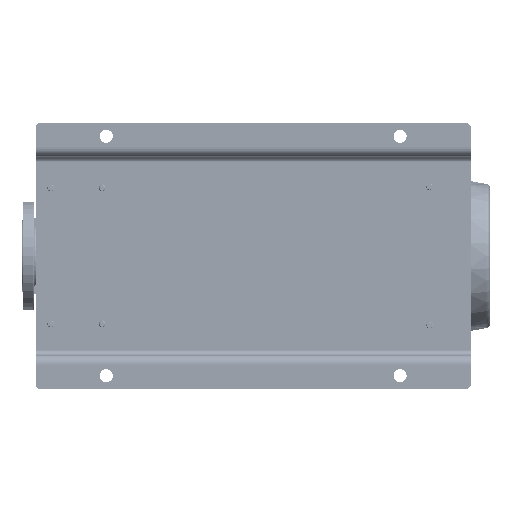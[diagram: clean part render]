
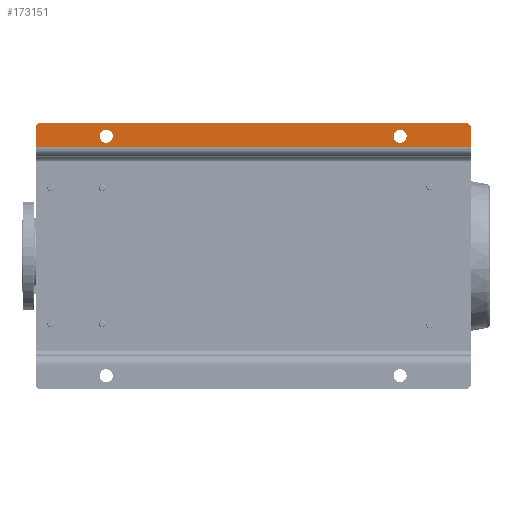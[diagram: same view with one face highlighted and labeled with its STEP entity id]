
A CAD part, front view. The second image highlights one B-rep face of the part: STEP entity #173151.
In plain terms, the highlighted planar face has unit normal (0, -1, 0).
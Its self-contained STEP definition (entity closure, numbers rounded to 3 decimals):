
#2724 = CIRCLE ( 'NONE', #177408, 12. ) ;
#3782 = CARTESIAN_POINT ( 'NONE',  ( 427., 0., -800. ) ) ;
#3902 = ORIENTED_EDGE ( 'NONE', *, *, #131941, .T. ) ;
#5808 = DIRECTION ( 'NONE',  ( 0., 0., 1. ) ) ;
#13594 = DIRECTION ( 'NONE',  ( 0., 0., -1. ) ) ;
#21958 = EDGE_CURVE ( 'NONE', #274943, #115754, #73987, .T. ) ;
#27419 = FACE_BOUND ( 'NONE', #140562, .T. ) ;
#29100 = EDGE_CURVE ( 'NONE', #115754, #265464, #122783, .T. ) ;
#37454 = ORIENTED_EDGE ( 'NONE', *, *, #107988, .F. ) ;
#41110 = VERTEX_POINT ( 'NONE', #50522 ) ;
#41213 = CARTESIAN_POINT ( 'NONE',  ( 480., 0., -800. ) ) ;
#44232 = LINE ( 'NONE', #266100, #277294 ) ;
#45119 = CARTESIAN_POINT ( 'NONE',  ( 465., 0., -130. ) ) ;
#50228 = CARTESIAN_POINT ( 'NONE',  ( 490., 0., -800. ) ) ;
#50522 = CARTESIAN_POINT ( 'NONE',  ( 453., 0., -130. ) ) ;
#54061 = CIRCLE ( 'NONE', #54273, 10. ) ;
#54273 = AXIS2_PLACEMENT_3D ( 'NONE', #87576, #227934, #202774 ) ;
#59007 = ORIENTED_EDGE ( 'NONE', *, *, #89410, .T. ) ;
#60137 = EDGE_CURVE ( 'NONE', #131681, #209529, #2724, .T. ) ;
#60865 = LINE ( 'NONE', #236913, #206789 ) ;
#65825 = CARTESIAN_POINT ( 'NONE',  ( 445., 0., 0. ) ) ;
#73397 = VERTEX_POINT ( 'NONE', #198457 ) ;
#73987 = LINE ( 'NONE', #220164, #165422 ) ;
#74282 = CIRCLE ( 'NONE', #163956, 12. ) ;
#76814 = DIRECTION ( 'NONE',  ( 0., 0., -1. ) ) ;
#80719 = AXIS2_PLACEMENT_3D ( 'NONE', #45119, #182493, #272784 ) ;
#81630 = DIRECTION ( 'NONE',  ( 0., 0., -1. ) ) ;
#85887 = VECTOR ( 'NONE', #5808, 1000. ) ;
#87576 = CARTESIAN_POINT ( 'NONE',  ( 480., 0., -10. ) ) ;
#87700 = CARTESIAN_POINT ( 'NONE',  ( 453., 0., -670. ) ) ;
#89410 = EDGE_CURVE ( 'NONE', #265464, #73397, #252788, .T. ) ;
#91856 = ORIENTED_EDGE ( 'NONE', *, *, #166475, .T. ) ;
#93317 = EDGE_LOOP ( 'NONE', ( #145865, #188149 ) ) ;
#95834 = ORIENTED_EDGE ( 'NONE', *, *, #205626, .T. ) ;
#99415 = DIRECTION ( 'NONE',  ( 0., 0., -1. ) ) ;
#107988 = EDGE_CURVE ( 'NONE', #229811, #252547, #44232, .T. ) ;
#112230 = CARTESIAN_POINT ( 'NONE',  ( 480., 0., 0. ) ) ;
#115754 = VERTEX_POINT ( 'NONE', #41213 ) ;
#122283 = CARTESIAN_POINT ( 'NONE',  ( 477., 0., -130. ) ) ;
#122783 = CIRCLE ( 'NONE', #287903, 10. ) ;
#127335 = AXIS2_PLACEMENT_3D ( 'NONE', #3782, #227123, #134065 ) ;
#131681 = VERTEX_POINT ( 'NONE', #87700 ) ;
#131941 = EDGE_CURVE ( 'NONE', #209529, #131681, #183614, .T. ) ;
#134065 = DIRECTION ( 'NONE',  ( 0., 0., -1. ) ) ;
#136220 = ORIENTED_EDGE ( 'NONE', *, *, #60137, .T. ) ;
#140562 = EDGE_LOOP ( 'NONE', ( #136220, #3902 ) ) ;
#141327 = AXIS2_PLACEMENT_3D ( 'NONE', #216041, #193809, #99415 ) ;
#143508 = VERTEX_POINT ( 'NONE', #122283 ) ;
#143827 = DIRECTION ( 'NONE',  ( 0., 1., 0. ) ) ;
#145865 = ORIENTED_EDGE ( 'NONE', *, *, #270090, .T. ) ;
#157719 = CARTESIAN_POINT ( 'NONE',  ( 477., 0., -670. ) ) ;
#163956 = AXIS2_PLACEMENT_3D ( 'NONE', #231047, #143827, #81630 ) ;
#165422 = VECTOR ( 'NONE', #218696, 1000. ) ;
#166475 = EDGE_CURVE ( 'NONE', #73397, #252547, #54061, .T. ) ;
#173151 = ADVANCED_FACE ( 'NONE', ( #228597, #27419, #292209 ), #206375, .T. ) ;
#175851 = DIRECTION ( 'NONE',  ( 1., 0., 0. ) ) ;
#177408 = AXIS2_PLACEMENT_3D ( 'NONE', #215174, #261068, #219560 ) ;
#182493 = DIRECTION ( 'NONE',  ( 0., 1., 0. ) ) ;
#183614 = CIRCLE ( 'NONE', #141327, 12. ) ;
#188149 = ORIENTED_EDGE ( 'NONE', *, *, #240909, .T. ) ;
#193809 = DIRECTION ( 'NONE',  ( 0., 1., 0. ) ) ;
#198457 = CARTESIAN_POINT ( 'NONE',  ( 490., 0., -10. ) ) ;
#202577 = CARTESIAN_POINT ( 'NONE',  ( 445., 0., -800. ) ) ;
#202774 = DIRECTION ( 'NONE',  ( 0., 0., -1. ) ) ;
#205626 = EDGE_CURVE ( 'NONE', #229811, #274943, #60865, .T. ) ;
#206375 = PLANE ( 'NONE',  #127335 ) ;
#206789 = VECTOR ( 'NONE', #13594, 1000. ) ;
#208785 = ORIENTED_EDGE ( 'NONE', *, *, #29100, .T. ) ;
#209529 = VERTEX_POINT ( 'NONE', #157719 ) ;
#215174 = CARTESIAN_POINT ( 'NONE',  ( 465., 0., -670. ) ) ;
#216041 = CARTESIAN_POINT ( 'NONE',  ( 465., 0., -670. ) ) ;
#218696 = DIRECTION ( 'NONE',  ( 1., 0., 0. ) ) ;
#219560 = DIRECTION ( 'NONE',  ( 0., 0., -1. ) ) ;
#220164 = CARTESIAN_POINT ( 'NONE',  ( 427., 0., -800. ) ) ;
#227123 = DIRECTION ( 'NONE',  ( 0., -1., 0. ) ) ;
#227719 = CARTESIAN_POINT ( 'NONE',  ( 480., 0., -790. ) ) ;
#227934 = DIRECTION ( 'NONE',  ( 0., -1., 0. ) ) ;
#228597 = FACE_BOUND ( 'NONE', #93317, .T. ) ;
#229811 = VERTEX_POINT ( 'NONE', #65825 ) ;
#231047 = CARTESIAN_POINT ( 'NONE',  ( 465., 0., -130. ) ) ;
#231256 = EDGE_LOOP ( 'NONE', ( #37454, #95834, #272617, #208785, #59007, #91856 ) ) ;
#236913 = CARTESIAN_POINT ( 'NONE',  ( 445., 0., -800. ) ) ;
#240909 = EDGE_CURVE ( 'NONE', #143508, #41110, #278935, .T. ) ;
#248854 = CARTESIAN_POINT ( 'NONE',  ( 490., 0., -790. ) ) ;
#252547 = VERTEX_POINT ( 'NONE', #112230 ) ;
#252788 = LINE ( 'NONE', #50228, #85887 ) ;
#252819 = DIRECTION ( 'NONE',  ( 0., -1., 0. ) ) ;
#261068 = DIRECTION ( 'NONE',  ( 0., 1., 0. ) ) ;
#265464 = VERTEX_POINT ( 'NONE', #248854 ) ;
#266100 = CARTESIAN_POINT ( 'NONE',  ( 427., 0., 0. ) ) ;
#270090 = EDGE_CURVE ( 'NONE', #41110, #143508, #74282, .T. ) ;
#272617 = ORIENTED_EDGE ( 'NONE', *, *, #21958, .T. ) ;
#272784 = DIRECTION ( 'NONE',  ( 0., 0., -1. ) ) ;
#274943 = VERTEX_POINT ( 'NONE', #202577 ) ;
#277294 = VECTOR ( 'NONE', #175851, 1000. ) ;
#278935 = CIRCLE ( 'NONE', #80719, 12. ) ;
#287903 = AXIS2_PLACEMENT_3D ( 'NONE', #227719, #252819, #76814 ) ;
#292209 = FACE_OUTER_BOUND ( 'NONE', #231256, .T. ) ;
